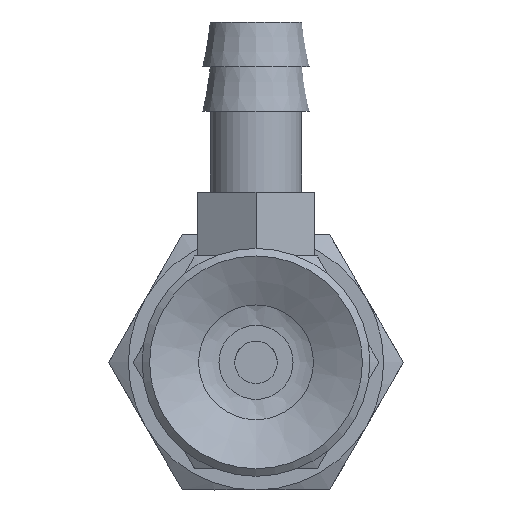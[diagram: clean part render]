
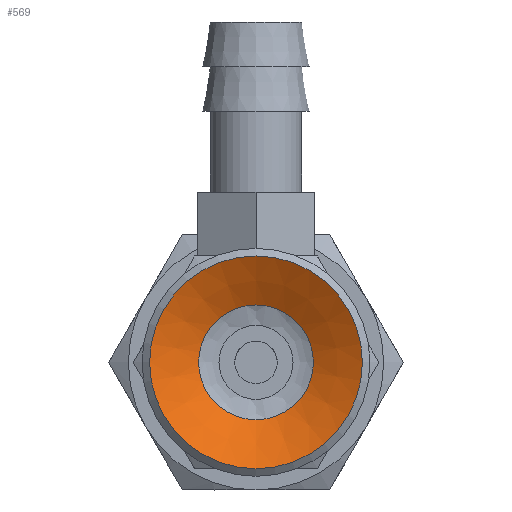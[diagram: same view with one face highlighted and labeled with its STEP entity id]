
A CAD part, front view. The second image highlights one B-rep face of the part: STEP entity #569.
In plain terms, the highlighted conical face has half-angle 61.39 degrees and reference radius 2.25 mm.
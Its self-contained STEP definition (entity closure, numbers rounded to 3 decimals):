
#569=ADVANCED_FACE('',(#871,#872),#873,.F.);
#871=FACE_BOUND('',#1240,.T.);
#872=FACE_OUTER_BOUND('',#1241,.T.);
#873=CONICAL_SURFACE('',#1242,2.25,1.071);
#1240=EDGE_LOOP('',(#2047));
#1241=EDGE_LOOP('',(#2048));
#1242=AXIS2_PLACEMENT_3D('',#2049,#2050,#2051);
#2047=ORIENTED_EDGE('',*,*,#2376,.T.);
#2048=ORIENTED_EDGE('',*,*,#2377,.T.);
#2049=CARTESIAN_POINT('',(0.0,1.5,0.0));
#2050=DIRECTION('',(-0.0,-1.0,0.));
#2051=DIRECTION('',(0.0,0.,-1.0));
#2376=EDGE_CURVE('',#2759,#2759,#2760,.T.);
#2377=EDGE_CURVE('',#2761,#2761,#2762,.T.);
#2759=VERTEX_POINT('',#3591);
#2760=CIRCLE('',#3592,2.698);
#2761=VERTEX_POINT('',#3593);
#2762=CIRCLE('',#3594,5.);
#3591=CARTESIAN_POINT('',(0.0,1.256,-2.698));
#3592=AXIS2_PLACEMENT_3D('',#3972,#3973,#3974);
#3593=CARTESIAN_POINT('',(0.0,0.,-5.));
#3594=AXIS2_PLACEMENT_3D('',#3975,#3976,#3977);
#3972=CARTESIAN_POINT('',(0.0,1.256,0.0));
#3973=DIRECTION('',(0.0,1.0,0.));
#3974=DIRECTION('',(0.0,0.,-1.0));
#3975=CARTESIAN_POINT('',(0.0,0.0,0.0));
#3976=DIRECTION('',(0.0,-1.0,0.));
#3977=DIRECTION('',(0.0,0.,-1.0));
